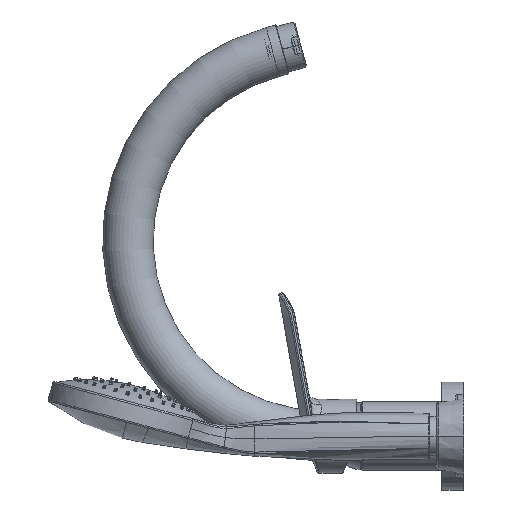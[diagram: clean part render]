
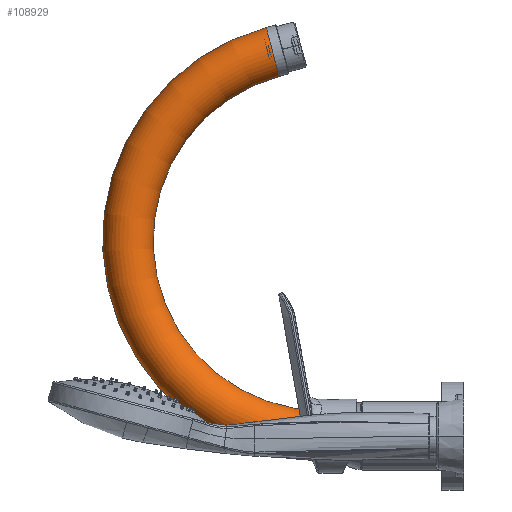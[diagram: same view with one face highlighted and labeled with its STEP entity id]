
A CAD part, left-side view. The second image highlights one B-rep face of the part: STEP entity #108929.
In plain terms, the highlighted toroidal (fillet/blend) face has major radius 116 mm and minor radius 15 mm.
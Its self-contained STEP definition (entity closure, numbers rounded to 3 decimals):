
#103786=CARTESIAN_POINT('',(0.,113.523,228.047));
#103787=DIRECTION('',(0.,-0.966,0.259));
#103788=DIRECTION('',(0.,0.259,0.966));
#103789=AXIS2_PLACEMENT_3D('',#103786,#103787,#103788);
#103814=CARTESIAN_POINT('',(0.,83.5,116.));
#103815=DIRECTION('',(1.,0.,0.));
#103816=DIRECTION('',(0.,0.,-1.));
#103817=AXIS2_PLACEMENT_3D('',#103814,#103815,#103816);
#105015=CARTESIAN_POINT('',(0.,83.5,0.));
#105016=DIRECTION('',(0.,1.,0.));
#105017=DIRECTION('',(0.,0.,-1.));
#105018=AXIS2_PLACEMENT_3D('',#105015,#105016,#105017);
#105020=CARTESIAN_POINT('',(0.,83.5,116.));
#105021=DIRECTION('',(1.,0.,0.));
#105022=DIRECTION('',(0.,0.,-1.));
#105023=AXIS2_PLACEMENT_3D('',#105020,#105021,#105022);
#106130=CARTESIAN_POINT('',(0.,83.5,-15.));
#106131=CARTESIAN_POINT('',(0.,83.5,15.));
#106132=VERTEX_POINT('',#106130);
#106133=VERTEX_POINT('',#106131);
#106134=CARTESIAN_POINT('',(0.,117.405,242.536));
#106135=CARTESIAN_POINT('',(0.,109.641,213.559));
#106136=VERTEX_POINT('',#106134);
#106137=VERTEX_POINT('',#106135);
#108918=CARTESIAN_POINT('',(0.,83.5,116.));
#108919=DIRECTION('',(1.,0.,0.));
#108920=DIRECTION('',(0.,0.,1.));
#108921=AXIS2_PLACEMENT_3D('',#108918,#108919,#108920);
#108922=TOROIDAL_SURFACE('',#108921,116.,15.);
#108923=ORIENTED_EDGE('',*,*,#108912,.F.);
#108924=ORIENTED_EDGE('',*,*,#107591,.T.);
#108925=ORIENTED_EDGE('',*,*,#107561,.T.);
#108926=ORIENTED_EDGE('',*,*,#107588,.F.);
#108927=EDGE_LOOP('',(#108923,#108924,#108925,#108926));
#108928=FACE_OUTER_BOUND('',#108927,.F.);
#108929=ADVANCED_FACE('',(#108928),#108922,.T.);
#103790=CIRCLE('',#103789,15.);
#103818=CIRCLE('',#103817,101.);
#105019=CIRCLE('',#105018,15.);
#105024=CIRCLE('',#105023,131.);
#107561=EDGE_CURVE('',#106136,#106137,#103790,.T.);
#107588=EDGE_CURVE('',#106133,#106137,#103818,.T.);
#107591=EDGE_CURVE('',#106132,#106136,#105024,.T.);
#108912=EDGE_CURVE('',#106132,#106133,#105019,.T.);
